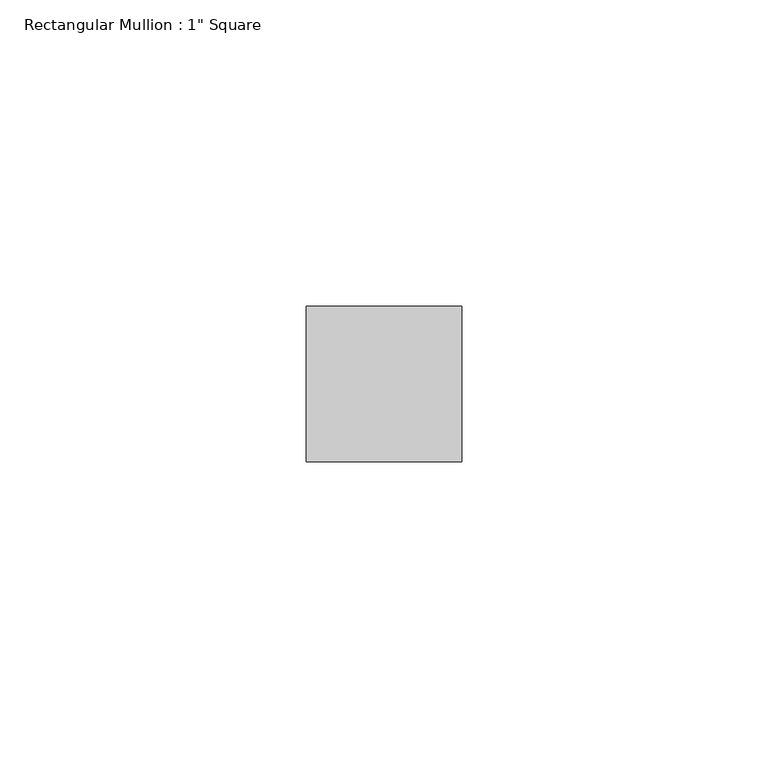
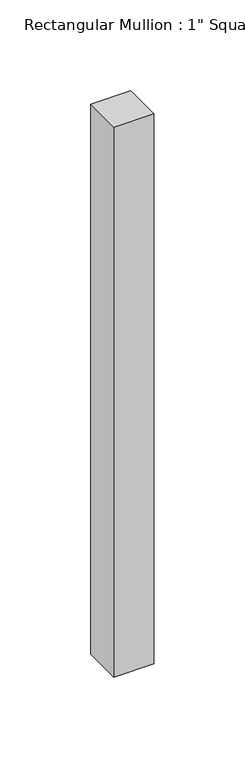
"""IFC4 building model written with IfcOpenShell, lengths in millimetres: member geometry."""

from ifc_helpers import new_model, si_unit, frame, origin, place, context, project, spatial, polyline, outline, extrude, source, transform, mapped, element, save


def member_77cb5569(model_context):
    return source(origin(), model_context, "Body", "SweptSolid", [
        extrude(outline(polyline([(0.0, 12.7), (0.0, -12.7), (-25.4, -12.7), (-25.4, 12.7), (0.0, 12.7)])), frame((0.0, 0.0, -369.4169828), z_axis=(0.0, 0.0, 1.0), x_axis=(1.0, 0.0, 0.0)), (0.0, 0.0, 1.0), 369.4169828),
    ])


if __name__ == "__main__":
    model = new_model("IFC4")
    model_context = context("Model", 3, world=origin())
    ifc_project = project(units=[si_unit("LENGTHUNIT", "METRE", prefix="MILLI")], contexts=[model_context])
    site = spatial("IfcSite", under=ifc_project)
    building = spatial("IfcBuilding", under=site)
    placement = place(None, origin())
    member_shape = member_77cb5569(model_context)
    element("IfcMember", 1, ObjectType="Rectangular Mullion : 1\" Square", at=placement, inside=building, context=model_context, shape_type="MappedRepresentation", body=[
        mapped(member_shape, transform((0.0, 0.0, 0.0), x_axis=(1.0, 0.0, 0.0), y_axis=(0.0, 1.0, 0.0), z_axis=(0.0, 0.0, 1.0))),
    ])
    save(model, "model.ifc")
